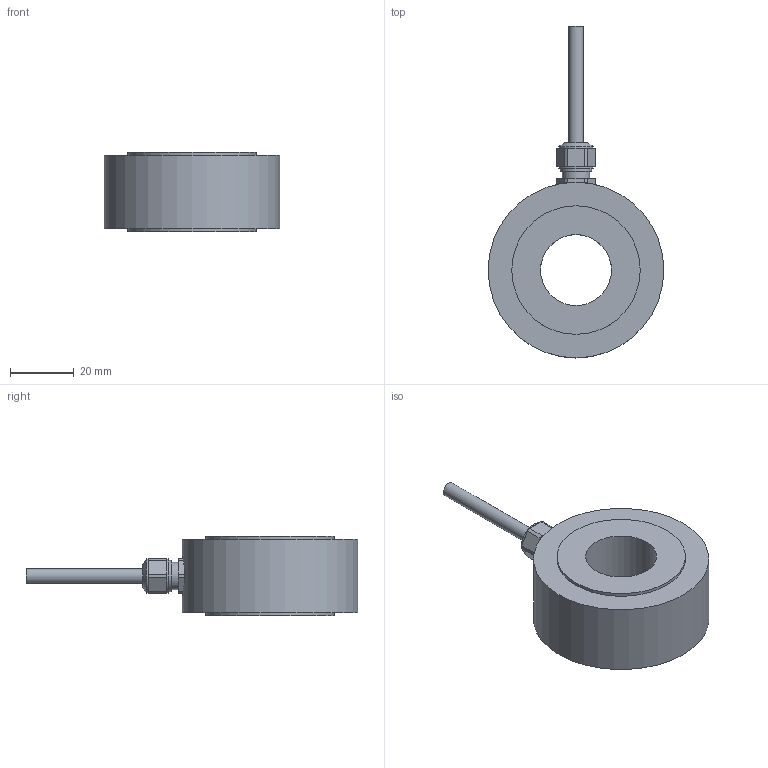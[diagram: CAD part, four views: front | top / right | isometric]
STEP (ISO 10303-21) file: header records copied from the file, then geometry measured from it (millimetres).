
FILE_DESCRIPTION(/* description */ (''),/* implementation_level */ '2;1');
FILE_NAME(/* name */ 'I:/New Datasheets/STEP Models/Pending models/CCG-200kN-003-000.step',/* time_stamp */ '2019-08-16T13:45:36+01:00',/* author */ (''),/* organization */ (''),/* preprocessor_version */ 'ST-DEVELOPER v18',/* originating_system */ 'Autodesk Translation Framework v8.6.0.1094',/* authorisation */ '');
FILE_SCHEMA (('AUTOMOTIVE_DESIGN { 1 0 10303 214 3 1 1 }'));
Length unit declared in the file: millimetre
Products named in the file (2): CCG-200kN-003-000 -; CCG-200kN-003-000
Assembly tree (1 placements, depth 2):
  CCG-200kN-003-000 -
    CCG-200kN-003-000
Bounding box: 55.2 x 104.33 x 25 mm (x, y, z)
Volume: 49230.5 mm3; surface area: 11971.7 mm2
Topology: 1 solids, 5 shells, 87 faces, 216 edges, 151 vertices
Faces by surface type: plane 34, cylinder 32, cone 12, torus 9
Full cylindrical faces by diameter (mm): 4.6 x2, 5.1 x1, 5.2 x1, 6.466 x2, 6.7 x1, 6.779 x2, 8.596 x1, 9 x1, 9.15 x1, 9.794 x1, 10.9 x2, 12.5 x1, 22.3 x1, 40.4 x2, 55.2 x1
Entity records: 2766 total; most frequent: CARTESIAN_POINT 515, DIRECTION 514, ORIENTED_EDGE 430, AXIS2_PLACEMENT_3D 223, EDGE_CURVE 215, VERTEX_POINT 151, CIRCLE 133, EDGE_LOOP 108
